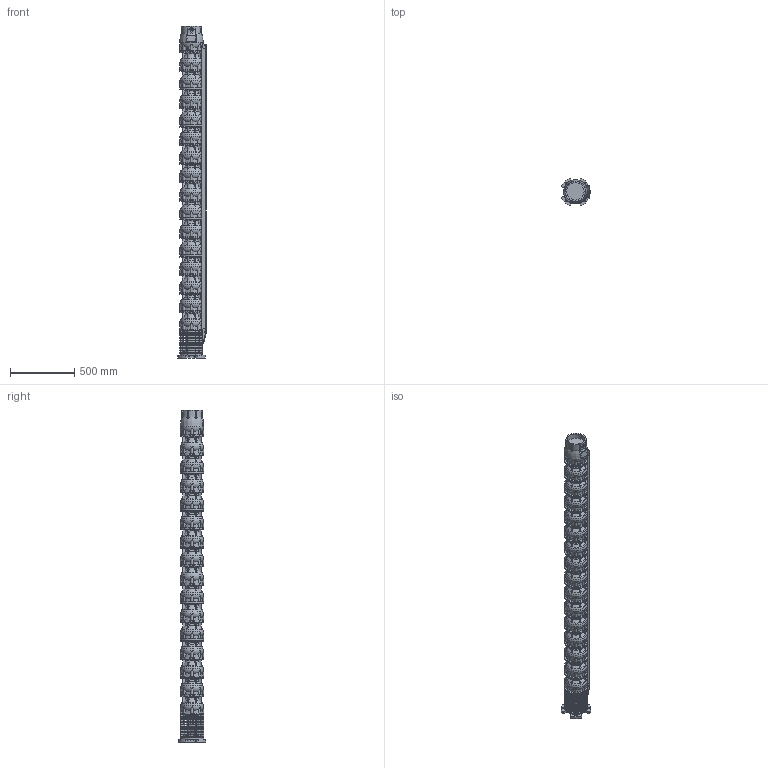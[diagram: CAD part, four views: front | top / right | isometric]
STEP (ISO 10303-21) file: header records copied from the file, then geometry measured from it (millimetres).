
FILE_DESCRIPTION(/* description */ ('Unknown'),/* implementation_level */ '2;1');
FILE_NAME(/* name */ 'VSI134-15_WR_M10-50_DME',/* time_stamp */ '2023-09-14T14:37:47+02:00',/* author */ ('Unknown'),/* organization */ ('Unknown'),/* preprocessor_version */ 'ST-DEVELOPER v18.102',/* originating_system */ 'Solid Edge',/* authorisation */ 'Unknown');
FILE_SCHEMA (('AUTOMOTIVE_DESIGN {1 0 10303 214 3 1 1}'));
Products named in the file (12): VSI134-15_WR_M10-50_DME; VSI134_testata; VSI134_diffusore; VSI134_supporto_8×8; VSI134_adattatore_8×10; VSI134_filtro_A; VSI134_filtro_B; VSI134_terminale_top_copricavo_medio; VSI134_terminale_bottom_copricavo_medio; MID 134-15; M5X8_UNI7687; VSI134_giunto_8×10
Assembly tree (34 placements, depth 2):
  VSI134-15_WR_M10-50_DME
    VSI134_testata
    VSI134_diffusore  x15
    VSI134_supporto_8×8
    VSI134_adattatore_8×10
    VSI134_filtro_A
    VSI134_filtro_B
    VSI134_terminale_top_copricavo_medio
    VSI134_terminale_bottom_copricavo_medio
    MID 134-15
    M5X8_UNI7687  x10
    VSI134_giunto_8×10
Bounding box: 221.78 x 213.16 x 2593 mm (x, y, z)
Volume: 48146053 mm3; surface area: 3718730.9 mm2
Topology: 73 solids, 75 shells, 4975 faces, 14005 edges, 9355 vertices
Faces by surface type: plane 3534, torus 699, cylinder 631, cone 68, bspline 31, sphere 12
Full cylindrical faces by diameter (mm): 2.4 x2, 3 x2, 4.2 x16, 5 x10, 5.5 x8, 14 x4, 16 x4, 17.5 x4, 26 x1, 30 x4, 44 x1, 65 x1, 69 x1, 74 x1, 84 x1, 98 x1, 127 x2, 135.472 x1, 157 x1, 182 x16
Entity records: 85355 total; most frequent: CARTESIAN_POINT 18299, ORIENTED_EDGE 13946, DIRECTION 13462, EDGE_CURVE 6973, VERTEX_POINT 4707, AXIS2_PLACEMENT_3D 4609, LINE 4244, VECTOR 4244
